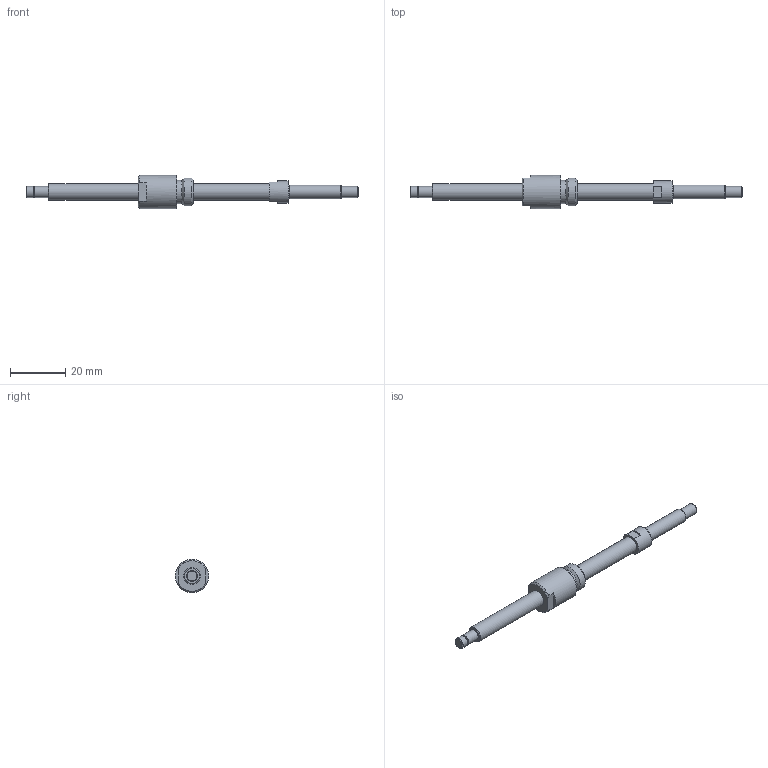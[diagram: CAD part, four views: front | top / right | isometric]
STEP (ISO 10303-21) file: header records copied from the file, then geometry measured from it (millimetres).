
FILE_DESCRIPTION(/* description */ ('STEP AP214'),/* implementation_level */ '2;1');
FILE_NAME(/* name */ 'NSG0601-077R120C5B0X(32.5)',/* time_stamp */ '2026-08-20T15:45:52+02:00',/* author */ ('License CC BY-ND 4.0'),/* organization */ ('CADENAS'),/* preprocessor_version */ 'ST-DEVELOPER v20',/* originating_system */ 'PARTsolutions',/* authorisation */ ' ');
FILE_SCHEMA (('AUTOMOTIVE_DESIGN {1 0 10303 214 3 1 1}'));
Length unit declared in the file: millimetre
Products named in the file (3): NSG0601-077R120C5B0X(32.5); NSG0601-77R120C3B_shaft; NSG0601_nut
Assembly tree (2 placements, depth 2):
  NSG0601-077R120C5B0X(32.5)
    NSG0601-77R120C3B_shaft
    NSG0601_nut
Bounding box: 120 x 12 x 12 mm (x, y, z)
Volume: 4550.5 mm3; surface area: 3501.7 mm2
Topology: 2 solids, 2 shells, 41 faces, 80 edges, 50 vertices
Faces by surface type: plane 19, cylinder 11, cone 10, torus 1
Full cylindrical faces by diameter (mm): 3.7 x1, 4 x3, 5 x1, 6 x2, 8 x1, 8.4 x1, 10 x1, 12 x1
Entity records: 1017 total; most frequent: DIRECTION 180, CARTESIAN_POINT 162, ORIENTED_EDGE 116, AXIS2_PLACEMENT_3D 82, EDGE_LOOP 70, FACE_BOUND 70, EDGE_CURVE 58, VERTEX_POINT 48
